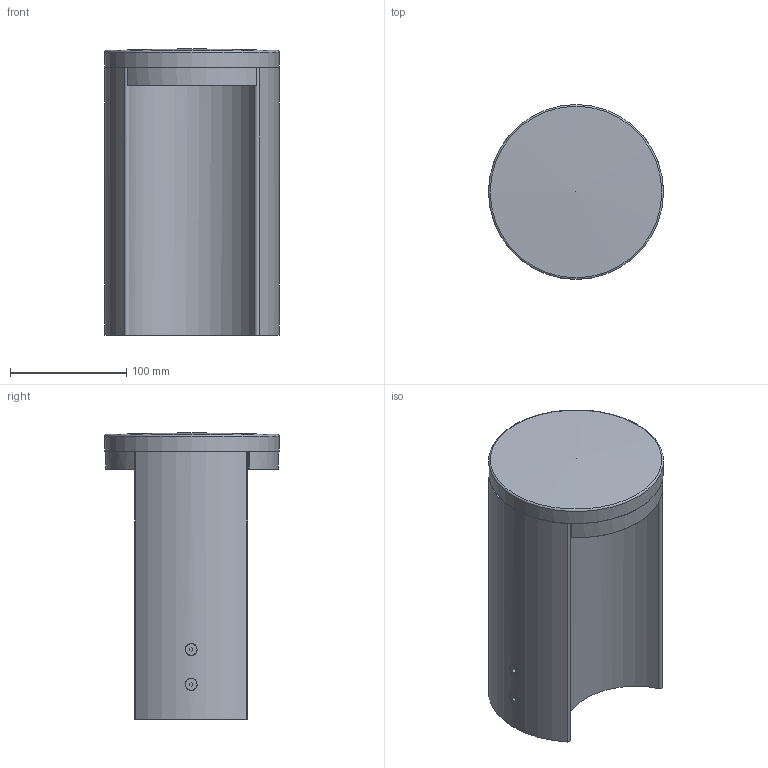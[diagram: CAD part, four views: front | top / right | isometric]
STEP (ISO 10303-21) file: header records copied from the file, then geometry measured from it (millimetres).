
FILE_DESCRIPTION(/* description */ ('Unknown'),/* implementation_level */ '2;1');
FILE_NAME(/* name */ 'RYO DOUBLE SMALL',/* time_stamp */ '2023-01-17T10:32:47+01:00',/* author */ ('Unknown'),/* organization */ ('Unknown'),/* preprocessor_version */ 'ST-DEVELOPER v18.1',/* originating_system */ 'Solid Edge',/* authorisation */ 'Unknown');
FILE_SCHEMA (('AUTOMOTIVE_DESIGN {1 0 10303 214 3 1 1}'));
Length unit declared in the file: millimetre
Products named in the file (1): E64764_Semplifica
Bounding box: 150.46 x 150.46 x 246.5 mm (x, y, z)
Volume: 606308 mm3; surface area: 337087.3 mm2
Topology: 6 solids, 6 shells, 1550 faces, 3617 edges, 2003 vertices
Faces by surface type: cylinder 546, torus 345, plane 283, cone 130, sphere 130, bspline 116
Full cylindrical faces by diameter (mm): 2.459 x14, 2.5 x7, 3 x5, 3.5 x5, 4.917 x4, 5 x4, 5.5 x4, 7 x10, 17 x2
Entity records: 54073 total; most frequent: CARTESIAN_POINT 9402, DIRECTION 7859, ORIENTED_EDGE 6704, AXIS2_PLACEMENT_3D 3358, EDGE_CURVE 3352, VERTEX_POINT 1964, CIRCLE 1861, FACE_BOUND 1740
